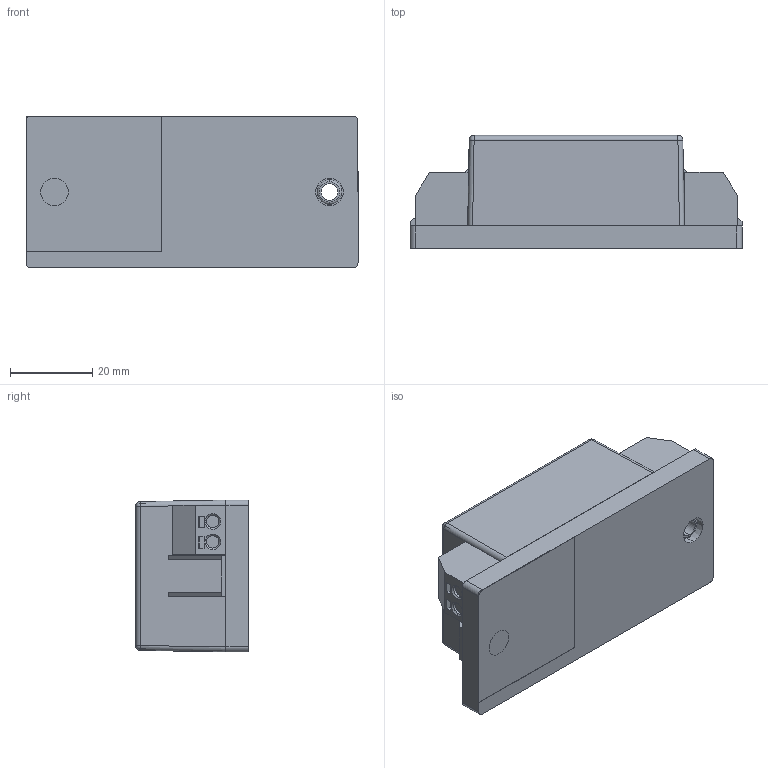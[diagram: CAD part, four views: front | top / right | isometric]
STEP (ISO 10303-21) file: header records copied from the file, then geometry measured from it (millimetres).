
FILE_DESCRIPTION (( 'STEP AP214' ), '1' );
FILE_NAME ('D-ELU.STEP', '2015-08-25T09:20:52', ( '' ), ( '' ), 'SwSTEP 2.0', 'SolidWorks 2015', '' );
FILE_SCHEMA (( 'AUTOMOTIVE_DESIGN' ));
Length unit declared in the file: millimetre
Products named in the file (26): BoardDummy-ELU; Dummy-Mod-A01; Unterteil; SW1Dummy-Mod-A01; SW2Dummy-Mod-A01; D-ELU; SW3Dummy-Mod-A01; S-2011A; _Without_knob-Dial; _S-2011A_body; X1Dummy-Mod-A01; 643883392; Extruded_2; 727485152; Extruded; BoardDummy-Mod-A01; X2Dummy-ELU; X3Dummy-ELU; 253_102_2_03; Aufkleber-33x33-ELU; X4Dummy-ELU; Oberteil-hoch-adr; 1757242; Dummy-ELU; mstba_2.5-2-g-5.08; B12Dummy-ELU
Assembly tree (42 placements, depth 7):
  D-ELU
    Unterteil
    Dummy-ELU
      BoardDummy-ELU
      X4Dummy-ELU
        1757242
          mstba_2.5-2-g-5.08
      X3Dummy-ELU
        253_102_2_03
      X2Dummy-ELU
        253_102_2_03
      B12Dummy-ELU
        Dummy-Mod-A01
          BoardDummy-Mod-A01
          X1Dummy-Mod-A01
            727485152
              Extruded
            643883392  x14
              Extruded_2
          SW3Dummy-Mod-A01
            S-2011A
              _S-2011A_body
              _Without_knob-Dial
          SW2Dummy-Mod-A01
            S-2011A
              _S-2011A_body
              _Without_knob-Dial
          SW1Dummy-Mod-A01
            S-2011A
              _S-2011A_body
              _Without_knob-Dial
    Oberteil-hoch-adr
    Aufkleber-33x33-ELU  x2
Bounding box: 80.9 x 27.7 x 37 mm (x, y, z)
Volume: 20968.6 mm3; surface area: 37980.5 mm2
Topology: 32 solids, 32 shells, 1563 faces, 4059 edges, 2670 vertices
Faces by surface type: plane 865, cylinder 630, cone 52, torus 8, bspline 4, sphere 4
Entity records: 31167 total; most frequent: CARTESIAN_POINT 4335, DIRECTION 4278, ORIENTED_EDGE 3988, EDGE_CURVE 1994, AXIS2_PLACEMENT_3D 1497, VERTEX_POINT 1302, LINE 1284, VECTOR 1284
